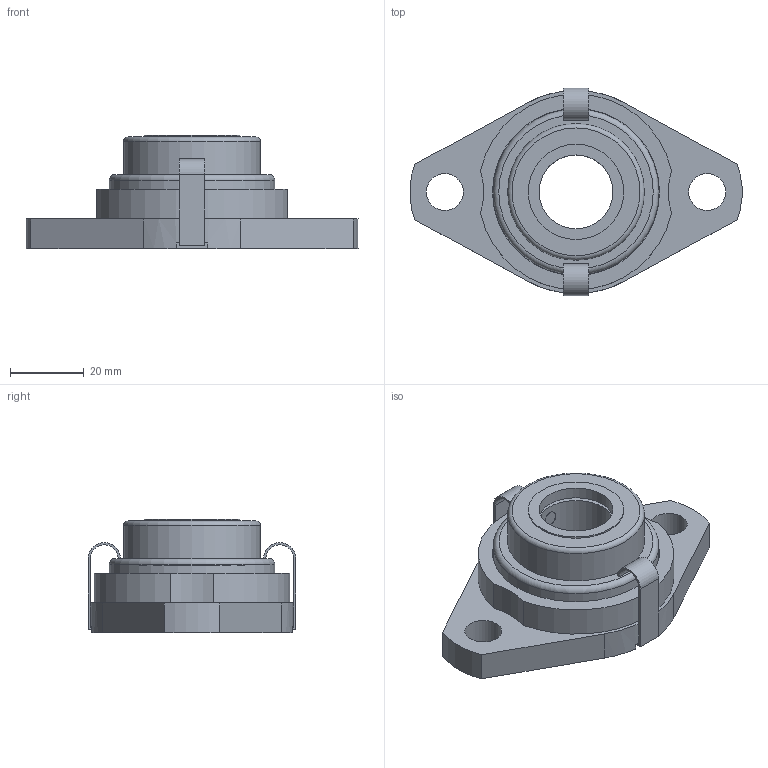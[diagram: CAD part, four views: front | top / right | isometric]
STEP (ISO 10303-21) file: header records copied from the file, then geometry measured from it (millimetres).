
FILE_DESCRIPTION((''),'2;1');
FILE_NAME('\\Ts-tgl068\j-cad-d-base\00.3DCADデータ作成フォルダ\11.エコシリーズ\MUSFL000\MUSFL004C.stp','2014-11-12T09:42:57',('btec_1106_2'),(''),'Autodesk Inventor 2012','Autodesk Inventor 2012','');
FILE_SCHEMA(('AUTOMOTIVE_DESIGN { 1 0 10303 214 1 1 1 1 }'));
Length unit declared in the file: millimetre
Products named in the file (5): MUSFL000C(E); SFL004; U004; 04-5CP20; 4-5CLL
Assembly tree (5 placements, depth 2):
  MUSFL000C(E)
    SFL004
    U004
    04-5CP20
    4-5CLL  x2
Bounding box: 89.89 x 56.2 x 30.6 mm (x, y, z)
Volume: 38590.9 mm3; surface area: 23892.3 mm2
Topology: 5 solids, 5 shells, 112 faces, 267 edges, 175 vertices
Faces by surface type: plane 62, cylinder 41, torus 4, cone 3, sphere 2
Full cylindrical faces by diameter (mm): 3.5 x1, 5 x1, 10 x2, 20 x2, 25.8 x2, 27 x1, 30 x1, 36.4 x1, 37 x1, 44.2 x1, 44.8 x1, 45.2 x1
Entity records: 3058 total; most frequent: CARTESIAN_POINT 606, DIRECTION 516, ORIENTED_EDGE 418, EDGE_CURVE 209, AXIS2_PLACEMENT_3D 201, VERTEX_POINT 151, EDGE_LOOP 150, VECTOR 114
